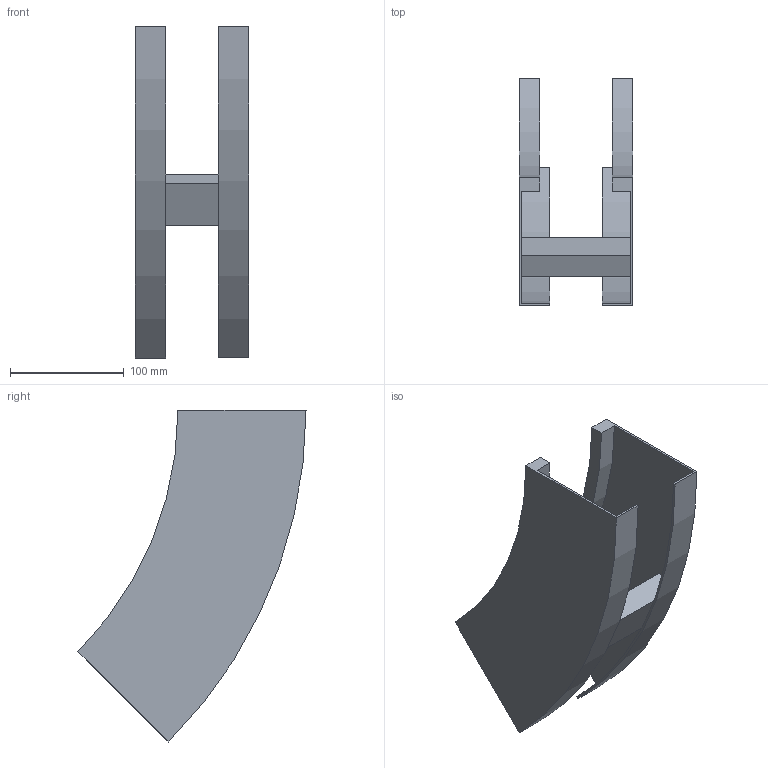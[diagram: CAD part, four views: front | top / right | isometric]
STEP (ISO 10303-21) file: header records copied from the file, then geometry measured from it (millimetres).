
FILE_DESCRIPTION (( 'STEP AP214' ), '1' );
FILE_NAME ('B2X31B3J100XX.step', '2025-03-20T10:07:25', ( '' ), ( '' ), 'SwSTEP 2.0', 'SolidWorks 2023', '' );
FILE_SCHEMA (( 'AUTOMOTIVE_DESIGN' ));
Length unit declared in the file: millimetre
Products named in the file (3): B2_LONGH.SALITA_45°_H112.5_R300; TRAVERSINO_100; B2X31B3J100XX
Assembly tree (3 placements, depth 2):
  B2X31B3J100XX
    B2_LONGH.SALITA_45°_H112.5_R300  x2
    TRAVERSINO_100
Bounding box: 100 x 200.37 x 291.68 mm (x, y, z)
Volume: 328275.7 mm3; surface area: 190951.9 mm2
Topology: 3 solids, 3 shells, 26 faces, 60 edges, 40 vertices
Faces by surface type: plane 18, cylinder 8
Entity records: 544 total; most frequent: DIRECTION 88, CARTESIAN_POINT 82, ORIENTED_EDGE 72, EDGE_CURVE 36, AXIS2_PLACEMENT_3D 30, VECTOR 28, LINE 28, VERTEX_POINT 24
